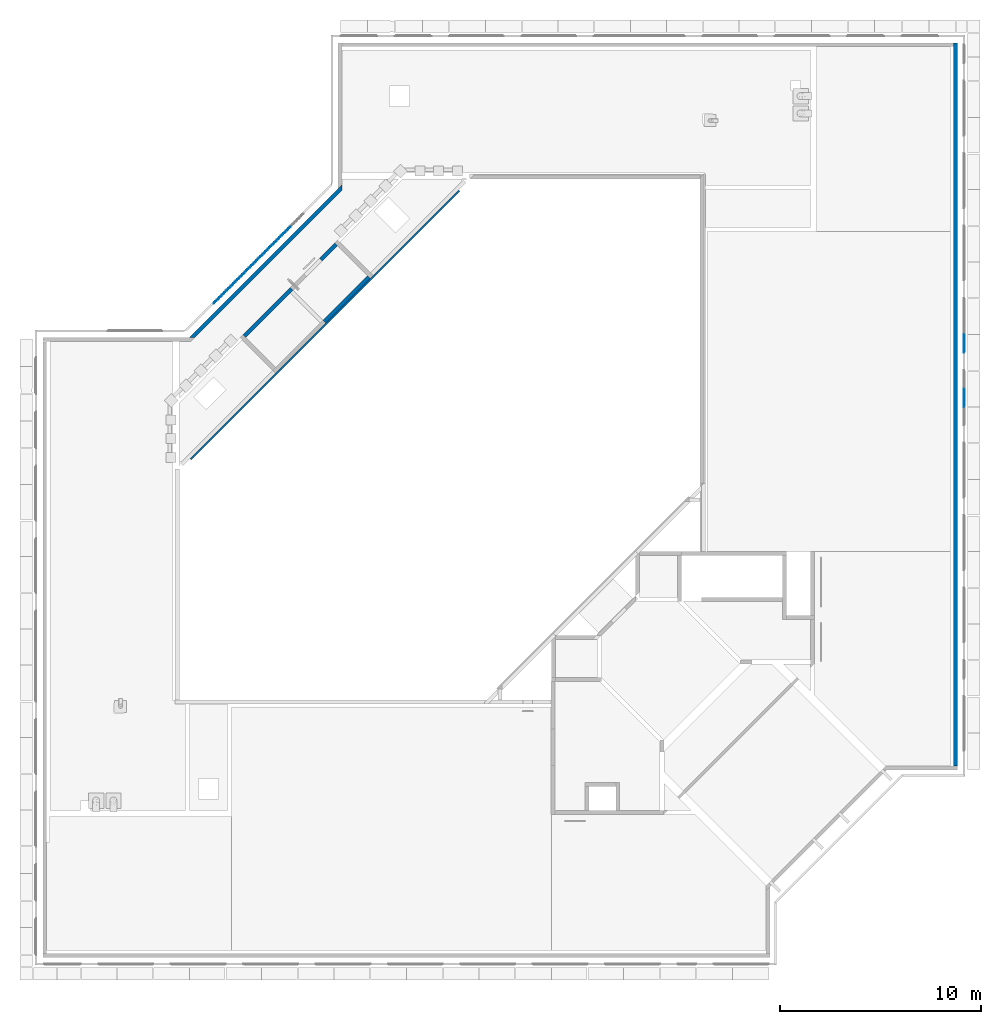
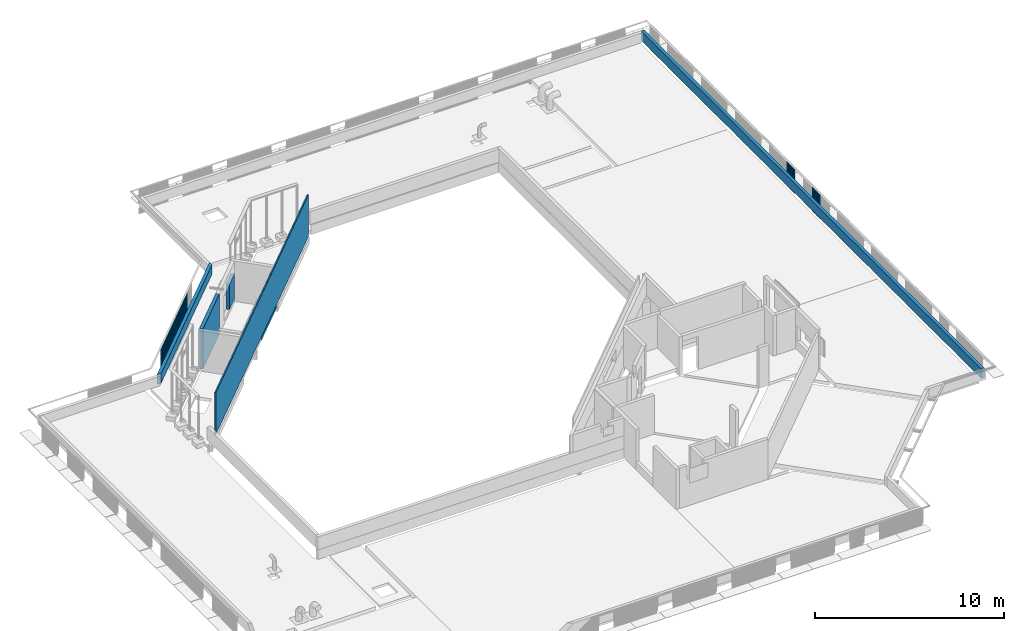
# One storey, part 13 of 37: 14 walls.
"""IFC4X3_ADD2 building model written with IfcOpenShell, lengths in millimetres."""

import ifcopenshell
import ifcopenshell.guid

model = None  # the IFC model being written
_history = None  # IfcOwnerHistory: only IFC2X3 demands one
_inside = {}  # id of a spatial element -> (the spatial element, [elements in it])
_under = {}  # id of a project, library or spatial element -> (it, [spatial elements below it])
_declared = {}  # id of a project -> (the project, [libraries it declares])
_typed = {}  # id of a type object -> (the type object, [elements of that type])
_made_of = {}  # id of a material, layer set ... -> (it, [elements and type objects made of it])


def new_model(schema):
    """Start an empty IFC model of exactly this schema.

    Asked for "IFC4X3", IfcOpenShell would pick the latest addendum, in which some entities
    have other attributes; the version numbers below select the first issue.
    IFC2X3 requires an IfcOwnerHistory on every rooted entity: one is made here for all.
    """
    global model, _history
    if schema == "IFC4X3":
        model = ifcopenshell.file(schema_version=(4, 3, 0, 0))
    else:
        model = ifcopenshell.file(schema=schema)
    _inside.clear()
    _under.clear()
    _declared.clear()
    _typed.clear()
    _made_of.clear()
    _history = None
    if model.schema == "IFC2X3":
        org = make("IfcOrganization", Name="unknown")
        user = make(
            "IfcPersonAndOrganization",
            ThePerson=make("IfcPerson", FamilyName="unknown"),
            TheOrganization=org,
        )
        app = make(
            "IfcApplication",
            ApplicationDeveloper=org,
            Version="unknown",
            ApplicationFullName="unknown",
            ApplicationIdentifier="unknown",
        )
        _history = make(
            "IfcOwnerHistory",
            OwningUser=user,
            OwningApplication=app,
            ChangeAction="ADDED",
            CreationDate=0,
        )
    return model


def make(cls, **values):
    """One entity of the class cls with the attributes given. An attribute that is None is left unset."""
    return model.create_entity(
        cls, **{name: value for name, value in values.items() if value is not None}
    )


def rooted(cls, **values):
    """An entity with a GlobalId (a new one), such as an element, a storey or a relation."""
    return make(cls, GlobalId=ifcopenshell.guid.new(), OwnerHistory=_history, **values)


def si_unit(unit_type, name, prefix=None):
    """IfcSIUnit, for example si_unit("LENGTHUNIT", "METRE", prefix="MILLI")."""
    return make("IfcSIUnit", UnitType=unit_type, Prefix=prefix, Name=name)


def assignment(units):
    """IfcUnitAssignment: the units of a project."""
    return None if units is None else make("IfcUnitAssignment", Units=units)


def point(xyz):
    """IfcCartesianPoint."""
    return None if xyz is None else make("IfcCartesianPoint", Coordinates=xyz)


def direction(xyz):
    """IfcDirection."""
    return None if xyz is None else make("IfcDirection", DirectionRatios=xyz)


def frame(location, z_axis=None, x_axis=None):
    """IfcAxis2Placement3D, a coordinate frame: its origin and axes. An axis left out is left unset."""
    return make(
        "IfcAxis2Placement3D",
        Location=point(location),
        Axis=direction(z_axis),
        RefDirection=direction(x_axis),
    )


def frame_2d(location, x_axis=None):
    """IfcAxis2Placement2D, a coordinate frame in the plane: its origin and x axis."""
    return make(
        "IfcAxis2Placement2D", Location=point(location), RefDirection=direction(x_axis)
    )


def origin_with_axes():
    """The frame at (0, 0, 0) with the z axis (0, 0, 1) and the x axis (1, 0, 0) written out."""
    return frame((0.0, 0.0, 0.0), z_axis=(0.0, 0.0, 1.0), x_axis=(1.0, 0.0, 0.0))


def origin_2d_with_axis():
    """The frame at (0, 0) in the plane with the x axis (1, 0) written out."""
    return frame_2d((0.0, 0.0), x_axis=(1.0, 0.0))


def place(relative_to, where):
    """IfcLocalPlacement: puts the frame where relative to a parent placement (None: the world)."""
    return make(
        "IfcLocalPlacement", PlacementRelTo=relative_to, RelativePlacement=where
    )


def context(
    kind, dimensions, precision=None, world=None, true_north=None, identifier=None
):
    """IfcGeometricRepresentationContext, for example the 3D "Model" context."""
    return make(
        "IfcGeometricRepresentationContext",
        ContextIdentifier=identifier,
        ContextType=kind,
        CoordinateSpaceDimension=dimensions,
        Precision=precision,
        WorldCoordinateSystem=world,
        TrueNorth=true_north,
    )


def subcontext(parent, identifier, kind, view, scale=None):
    """IfcGeometricRepresentationSubContext, for example "Body" below "Model"."""
    return make(
        "IfcGeometricRepresentationSubContext",
        ContextIdentifier=identifier,
        ContextType=kind,
        ParentContext=parent,
        TargetScale=scale,
        TargetView=view,
    )


def project(units=None, contexts=None):
    """IfcProject with its units and contexts."""
    return rooted(
        "IfcProject",
        Name="project",
        RepresentationContexts=contexts,
        UnitsInContext=assignment(units),
    )


def spatial(cls, under=None, at=None, **own):
    """A site, building, storey or space (cls), placed at a placement, below another one or the project."""
    s = rooted(cls, ObjectPlacement=at, **own)
    if under is not None:
        _under.setdefault(under.id(), (under, []))[1].append(s)
    return s


def polyline(points):
    """IfcPolyline through the points."""
    return make("IfcPolyline", Points=[point(p) for p in points])


def profile(cls, at=None, kind="AREA", **sizes):
    """A parametric profile (cls). Its sizes go by their IFC names, for example OverallWidth=200.0."""
    return make(cls, ProfileType=kind, Position=at, **sizes)


def rectangle(**sizes):
    """IfcRectangleProfileDef."""
    return profile("IfcRectangleProfileDef", **sizes)


def outline(outer, holes=None, kind="AREA"):
    """IfcArbitraryClosedProfileDef: a profile drawn as a closed curve; with holes, ...WithVoids."""
    if holes is None:
        return make("IfcArbitraryClosedProfileDef", ProfileType=kind, OuterCurve=outer)
    return make(
        "IfcArbitraryProfileDefWithVoids",
        ProfileType=kind,
        OuterCurve=outer,
        InnerCurves=holes,
    )


def extrude(swept, where, along, depth):
    """IfcExtrudedAreaSolid: the profile swept, set in the frame where, extruded along a direction by depth."""
    return make(
        "IfcExtrudedAreaSolid",
        SweptArea=swept,
        Position=where,
        ExtrudedDirection=direction(along),
        Depth=depth,
    )


def shape(context_of_items, identifier, shape_type, items):
    """IfcShapeRepresentation: the items that make up one representation, for example the "Body"."""
    return make(
        "IfcShapeRepresentation",
        ContextOfItems=context_of_items,
        RepresentationIdentifier=identifier,
        RepresentationType=shape_type,
        Items=items,
    )


def source(mapping_origin, context_of_items, identifier, shape_type, items):
    """IfcRepresentationMap: a shape defined once, which mapped items show again and again."""
    return make(
        "IfcRepresentationMap",
        MappingOrigin=mapping_origin,
        MappedRepresentation=shape(context_of_items, identifier, shape_type, items),
    )


def transform(
    local_origin,
    x_axis=None,
    y_axis=None,
    z_axis=None,
    scale=None,
    scale2=None,
    scale3=None,
    uniform=True,
):
    """IfcCartesianTransformationOperator3D, or its non-uniform kind. x_axis, y_axis, z_axis: its Axis1, 2, 3."""
    if uniform:
        return make(
            "IfcCartesianTransformationOperator3D",
            Axis1=direction(x_axis),
            Axis2=direction(y_axis),
            LocalOrigin=point(local_origin),
            Scale=scale,
            Axis3=direction(z_axis),
        )
    return make(
        "IfcCartesianTransformationOperator3DnonUniform",
        Axis1=direction(x_axis),
        Axis2=direction(y_axis),
        LocalOrigin=point(local_origin),
        Scale=scale,
        Axis3=direction(z_axis),
        Scale2=scale2,
        Scale3=scale3,
    )


def mapped(mapping_source, mapping_target):
    """IfcMappedItem: shows the shape of a source again, moved by a transform."""
    return make(
        "IfcMappedItem", MappingSource=mapping_source, MappingTarget=mapping_target
    )


def material(Name=None, Category=None):
    """IfcMaterial."""
    return make("IfcMaterial", Name=Name, Category=Category)


def made_of(thing, what):
    """Note that an element or type object is made of a material, layer set ...; save() writes the relation."""
    if what is not None:
        _made_of.setdefault(what.id(), (what, []))[1].append(thing)
    return thing


def type_object(cls, material=None, **own):
    """A type object (cls), such as IfcWallType, which elements share."""
    return made_of(rooted(cls, **own), material)


def type_shapes(of_type, sources):
    """Give a type object the sources (RepresentationMaps) that its elements show as mapped items."""
    of_type.RepresentationMaps = sources


def element(
    cls,
    number,
    at=None,
    inside=None,
    cuts=None,
    type_object=None,
    material=None,
    context=None,
    identifier="Body",
    shape_type=None,
    held_by="IfcProductDefinitionShape",
    body=None,
    shapes=None,
    **own,
):
    """One element of the class cls, such as IfcWall. Its Tag is "e" and its number.

    at: its placement. inside: the storey or other place that contains it. cuts: it is an
    opening in that element (IfcRelVoidsElement). A single representation is given by context,
    identifier, shape_type and body (its items); several are given by shapes. held_by: the class
    of the entity that holds the representations. save() writes the other relations.
    """
    e = rooted(cls, Tag="e%d" % number, ObjectPlacement=at, **own)
    if body is not None:
        shapes = [shape(context, identifier, shape_type, body)]
    if shapes is not None:
        e.Representation = make(held_by, Representations=shapes)
    if inside is not None:
        _inside.setdefault(inside.id(), (inside, []))[1].append(e)
    if cuts is not None:
        rooted(
            "IfcRelVoidsElement", RelatingBuildingElement=cuts, RelatedOpeningElement=e
        )
    if type_object is not None:
        _typed.setdefault(type_object.id(), (type_object, []))[1].append(e)
    return made_of(e, material)


def aggregate(whole, parts):
    """IfcRelAggregates: a whole, such as a stair, and the parts it consists of."""
    return rooted("IfcRelAggregates", RelatingObject=whole, RelatedObjects=parts)


def save(model, path):
    """Write the relations noted so far, then the file.

    IfcRelAggregates (storeys below a building ...), IfcRelContainedInSpatialStructure (elements
    in a storey), IfcRelDefinesByType, IfcRelAssociatesMaterial and IfcRelDeclares: one each for
    every whole, place, type object, material and project.
    """
    for whole, parts in _under.values():
        aggregate(whole, parts)
    for where, things in _inside.values():
        rooted(
            "IfcRelContainedInSpatialStructure",
            RelatedElements=things,
            RelatingStructure=where,
        )
    for kind, things in _typed.values():
        rooted("IfcRelDefinesByType", RelatedObjects=things, RelatingType=kind)
    for what, things in _made_of.values():
        rooted("IfcRelAssociatesMaterial", RelatedObjects=things, RelatingMaterial=what)
    for by, libraries in _declared.values():
        rooted("IfcRelDeclares", RelatingContext=by, RelatedDefinitions=libraries)
    model.write(path)


model = new_model("IFC4X3_ADD2")

# Units and contexts
model_context = context("Model", 3, precision=1e-05, world=origin_with_axes(), true_north=direction((0.0, 1.0)))
body_context = subcontext(model_context, "Body", "Model", "MODEL_VIEW")
ifc_project = project(units=[si_unit("LENGTHUNIT", "METRE", prefix="MILLI"), si_unit("AREAUNIT", "SQUARE_METRE"), si_unit("VOLUMEUNIT", "CUBIC_METRE"), si_unit("PLANEANGLEUNIT", "RADIAN"), si_unit("TIMEUNIT", "SECOND"), si_unit("MASSUNIT", "GRAM")], contexts=[model_context])

# Site, building, storey
site_placement = place(None, origin_with_axes())
site = spatial("IfcSite", under=ifc_project, at=site_placement, Name="Site", CompositionType="ELEMENT")
building_placement = place(site_placement, origin_with_axes())
building = spatial("IfcBuilding", under=site, at=building_placement, Name="IFC Building Story")
storey_placement = place(building_placement, frame((0.0, 0.0, 14400.0), z_axis=(0.0, 0.0, 1.0), x_axis=(1.0, 0.0, 0.0)))
storey = spatial("IfcBuildingStorey", under=building, at=storey_placement, Name="040", Elevation=14400.0)

# Walls
ifc_material_1 = material(Name="BB_Beton_Bestaand")
wall_type_1 = type_object("IfcWallType", Name="BB_Beton_Bestaand 200", PredefinedType="NOTDEFINED", material=ifc_material_1)
wall_1_placement = place(storey_placement, origin_with_axes())
element("IfcWall", 1, at=wall_1_placement, inside=storey, type_object=wall_type_1, Name="Basic Wall:BB_XX_Wand uit beton, 200 mm", ObjectType="Basic Wall:BB_XX_Wand uit beton, 200 mm", PredefinedType="SOLIDWALL", context=body_context, shape_type="SweptSolid", body=[
    extrude(rectangle(XDim=3139.99999999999, YDim=199.9999999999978, at=frame_2d((0.0, 0.0), x_axis=(0.7071067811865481, 0.7071067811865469))), frame((-30273.52940645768, 32628.19498780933, -200.0), z_axis=(0.0, 0.0, 1.0), x_axis=(1.0, 0.0, 0.0)), (0.0, 0.0, 1.0), 2600.0),
])
wall_2_placement = place(storey_placement, origin_with_axes())
element("IfcWall", 2, at=wall_2_placement, inside=storey, type_object=wall_type_1, Name="Basic Wall:BB_XX_Wand uit beton, 200 mm", ObjectType="Basic Wall:BB_XX_Wand uit beton, 200 mm", PredefinedType="SOLIDWALL", context=body_context, shape_type="SweptSolid", body=[
    extrude(rectangle(XDim=1079.999999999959, YDim=199.9999999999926, at=frame_2d((0.0, 0.0), x_axis=(0.7071067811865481, 0.7071067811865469))), frame((-31171.55501856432, 34982.86056916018, 0.0), z_axis=(0.0, 0.0, 1.0), x_axis=(1.0, 0.0, 0.0)), (0.0, 0.0, 1.0), 1610.0),
])
wall_3_placement = place(storey_placement, origin_with_axes())
element("IfcWall", 3, at=wall_3_placement, inside=storey, type_object=wall_type_1, Name="Basic Wall:BB_XX_Wand uit beton, 200 mm", ObjectType="Basic Wall:BB_XX_Wand uit beton, 200 mm", PredefinedType="SOLIDWALL", context=body_context, shape_type="SweptSolid", body=[
    extrude(rectangle(XDim=3330.000000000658, YDim=199.9999999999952, at=frame_2d((0.0, 0.0), x_axis=(0.7071067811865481, 0.7071067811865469))), frame((-34187.36544032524, 31967.05014739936, -200.0), z_axis=(0.0, 0.0, 1.0), x_axis=(1.0, 0.0, 0.0)), (0.0, 0.0, 1.0), 2600.0),
])
wall_type_2 = type_object("IfcWallType", Name="BB_Beton_Bestaand 190", PredefinedType="NOTDEFINED", material=ifc_material_1)
wall_4_placement = place(storey_placement, origin_with_axes())
element("IfcWall", 4, at=wall_4_placement, inside=storey, type_object=wall_type_2, Name="Basic Wall:BB_XX_Wand uit beton, 190 mm", ObjectType="Basic Wall:BB_XX_Wand uit beton, 190 mm", PredefinedType="SOLIDWALL", context=body_context, shape_type="SweptSolid", body=[
    extrude(rectangle(XDim=35964.9999999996, YDim=190.0, at=frame_2d((0.0, 0.0), x_axis=(0.0, 1.0))), frame((0.0, 27397.5000000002, -200.0), z_axis=(0.0, 0.0, 1.0), x_axis=(1.0, 0.0, 0.0)), (0.0, 0.0, 1.0), 619.9999999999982),
])
wall_5_placement = place(storey_placement, origin_with_axes())
element("IfcWall", 5, at=wall_5_placement, inside=storey, type_object=wall_type_2, Name="Basic Wall:BB_XX_Wand uit beton, 190 mm", ObjectType="Basic Wall:BB_XX_Wand uit beton, 190 mm", PredefinedType="SOLIDWALL", context=body_context, shape_type="SweptSolid", body=[
    extrude(outline(polyline([(3735.065097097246, 3600.714808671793), (-3600.714808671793, -3735.065097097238), (-3869.41538552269, -3735.065097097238), (3735.065097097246, 3869.415385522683), (3735.065097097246, 3600.714808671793)])), frame((-34240.06509709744, 34459.93490289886, -200.0), z_axis=(0.0, 0.0, 1.0), x_axis=(1.0, 0.0, 0.0)), (0.0, 0.0, 1.0), 619.999999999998),
])
wall_type_3 = type_object("IfcWallType", Name="Basic Wall_BB_10.01_Akoestische voorzetwand atrium_ 75 mm13", PredefinedType="NOTDEFINED")
shared_shape = source(origin_with_axes(), body_context, "Body", "SweptSolid", [
    extrude(rectangle(XDim=18900.0, YDim=49.99999999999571, at=origin_2d_with_axis()), frame((9449.999999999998, 12.49999999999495, 0.0), z_axis=(0.0, 0.0, 1.0), x_axis=(1.0, 0.0, 0.0)), (0.0, 0.0, 1.0), 2700.0),
    extrude(rectangle(XDim=18899.99999999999, YDim=12.50000000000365, at=origin_2d_with_axis()), frame((9450.000000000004, -18.7500000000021, 0.0), z_axis=(0.0, 0.0, 1.0), x_axis=(1.0, 0.0, 0.0)), (0.0, 0.0, 1.0), 2700.0),
    extrude(rectangle(XDim=18900.0, YDim=12.50000000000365, at=origin_2d_with_axis()), frame((9449.999999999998, -31.25000000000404, 0.0), z_axis=(0.0, 0.0, 1.0), x_axis=(1.0, 0.0, 0.0)), (0.0, 0.0, 1.0), 2700.0),
])
type_shapes(wall_type_3, [shared_shape])
wall_6_placement = place(storey_placement, frame((-38035.7940969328, 24671.4759325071, 230.0), z_axis=(0.0, 0.0, 1.0), x_axis=(0.7071067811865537, 0.7071067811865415, 0.0)))
element("IfcWall", 6, at=wall_6_placement, inside=storey, type_object=wall_type_3, Name="Basic Wall:BB_10.01_Akoestische voorzetwand atrium, 75 mm", ObjectType="Basic Wall:BB_10.01_Akoestische voorzetwand atrium, 75 mm", PredefinedType="PARTITIONING", context=body_context, shape_type="MappedRepresentation", body=[
    mapped(shared_shape, transform((0.0, 0.0, 0.0))),
])
ifc_material_2 = material(Name="BB_Metaal_Aluminium_Puntprofiel")
wall_type_4 = type_object("IfcWallType", Name="BB_Metaal_Aluminium_Puntprofiel 1", PredefinedType="NOTDEFINED", material=ifc_material_2)
wall_7_placement = place(storey_placement, origin_with_axes())
element("IfcWall", 7, at=wall_7_placement, inside=storey, type_object=wall_type_4, Name="BB_07.10_Gevelbekleding_PuntProfiel, 900 mm, vol_GMO:900 x 1600 mm", ObjectType="BB_07.10_Gevelbekleding_PuntProfiel, 900 mm, vol_GMO:900 x 1600 mm", PredefinedType="NOTDEFINED", context=body_context, shape_type="SweptSolid", body=[
    extrude(outline(polyline([(-10.06027913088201, -349.0000000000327), (-10.06027913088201, -371.0000000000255), (23.93972086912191, -405.0000000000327), (-10.06027913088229, -439.0000000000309), (-10.06027913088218, -461.0000000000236), (-11.06027913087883, -461.4142135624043), (-11.06027913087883, -438.5857864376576), (22.52550730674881, -405.0000000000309), (-11.06027913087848, -371.4142135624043), (-11.06027913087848, -348.5857864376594), (22.52550730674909, -315.0000000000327), (-11.0602791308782, -281.4142135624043), (-11.0602791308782, -258.5857864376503), (22.52550730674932, -225.0000000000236), (-11.06027913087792, -191.4142135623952), (-11.06027913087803, -168.585786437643), (22.5255073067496, -135.0000000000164), (-11.0602791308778, -101.4142135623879), (-11.06027913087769, -78.58578643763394), (22.52550730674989, -45.00000000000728), (-11.06027913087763, -11.41421356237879), (-11.06027913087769, 11.41421356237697), (22.52550730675, 45.00000000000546), (-11.0602791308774, 78.58578643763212), (-11.0602791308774, 101.4142135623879), (22.52550730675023, 135.0000000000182), (-11.06027913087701, 168.585786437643), (-11.06027913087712, 191.4142135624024), (22.5255073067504, 225.0000000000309), (-11.06027913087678, 258.5857864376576), (-11.06027913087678, 281.4142135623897), (22.5255073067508, 315.0000000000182), (-11.06027913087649, 348.585786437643), (-11.06027913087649, 371.4142135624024), (22.52550730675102, 405.0000000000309), (-11.06027913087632, 438.5857864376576), (-11.06027913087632, 461.4142135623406), (-10.0602791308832, 460.9999999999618), (-10.0602791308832, 439.0000000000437), (23.93972086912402, 405.0000000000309), (-10.06027913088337, 371.0000000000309), (-10.06027913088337, 349.0000000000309), (23.93972086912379, 315.0000000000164), (-10.0602791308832, 281.0000000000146), (-10.0602791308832, 259.0000000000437), (23.93972086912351, 225.0000000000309), (-10.060279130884, 191.0000000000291), (-10.060279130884, 169.0000000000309), (23.93972086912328, 135.0000000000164), (-10.06027913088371, 101.0000000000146), (-10.06027913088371, 79.00000000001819), (23.93972086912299, 45.00000000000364), (-10.06027913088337, 11.00000000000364), (-10.06027913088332, -10.99999999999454), (23.93972086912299, -45.00000000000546), (-10.0602791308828, -79.00000000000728), (-10.0602791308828, -101.0000000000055), (23.93972086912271, -135.0000000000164), (-10.06027913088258, -169.0000000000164), (-10.06027913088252, -191.0000000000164), (23.93972086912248, -225.0000000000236), (-10.06027913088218, -259.0000000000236), (-10.06027913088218, -281.0000000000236), (23.9397208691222, -315.0000000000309), (-10.06027913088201, -349.0000000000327)])), frame((426.0602791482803, 27730.00000000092, -960.0), z_axis=(0.0, 0.0, 1.0), x_axis=(1.0, 0.0, 0.0)), (0.0, 0.0, 1.0), 1600.0),
])
wall_8_placement = place(storey_placement, origin_with_axes())
element("IfcWall", 8, at=wall_8_placement, inside=storey, type_object=wall_type_4, Name="BB_07.10_Gevelbekleding_PuntProfiel, 900 mm, vol_GMO:900 x 1600 mm", ObjectType="BB_07.10_Gevelbekleding_PuntProfiel, 900 mm, vol_GMO:900 x 1600 mm", PredefinedType="NOTDEFINED", context=body_context, shape_type="SweptSolid", body=[
    extrude(outline(polyline([(-10.06027913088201, -349.0000000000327), (-10.06027913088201, -371.0000000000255), (23.93972086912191, -405.0000000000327), (-10.06027913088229, -439.0000000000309), (-10.06027913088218, -461.0000000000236), (-11.06027913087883, -461.4142135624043), (-11.06027913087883, -438.5857864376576), (22.52550730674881, -405.0000000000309), (-11.06027913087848, -371.4142135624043), (-11.06027913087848, -348.5857864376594), (22.52550730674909, -315.0000000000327), (-11.0602791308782, -281.4142135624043), (-11.0602791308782, -258.5857864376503), (22.52550730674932, -225.0000000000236), (-11.06027913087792, -191.4142135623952), (-11.06027913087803, -168.585786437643), (22.5255073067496, -135.0000000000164), (-11.0602791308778, -101.4142135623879), (-11.06027913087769, -78.58578643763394), (22.52550730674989, -45.00000000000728), (-11.06027913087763, -11.41421356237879), (-11.06027913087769, 11.41421356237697), (22.52550730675, 45.00000000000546), (-11.0602791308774, 78.58578643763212), (-11.0602791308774, 101.4142135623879), (22.52550730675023, 135.0000000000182), (-11.06027913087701, 168.585786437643), (-11.06027913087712, 191.4142135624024), (22.5255073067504, 225.0000000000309), (-11.06027913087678, 258.5857864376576), (-11.06027913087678, 281.4142135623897), (22.5255073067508, 315.0000000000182), (-11.06027913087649, 348.585786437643), (-11.06027913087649, 371.4142135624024), (22.52550730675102, 405.0000000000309), (-11.06027913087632, 438.5857864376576), (-11.06027913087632, 461.4142135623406), (-10.0602791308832, 460.9999999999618), (-10.0602791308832, 439.0000000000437), (23.93972086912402, 405.0000000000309), (-10.06027913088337, 371.0000000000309), (-10.06027913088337, 349.0000000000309), (23.93972086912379, 315.0000000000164), (-10.0602791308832, 281.0000000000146), (-10.0602791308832, 259.0000000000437), (23.93972086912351, 225.0000000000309), (-10.060279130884, 191.0000000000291), (-10.060279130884, 169.0000000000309), (23.93972086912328, 135.0000000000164), (-10.06027913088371, 101.0000000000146), (-10.06027913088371, 79.00000000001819), (23.93972086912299, 45.00000000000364), (-10.06027913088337, 11.00000000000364), (-10.06027913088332, -10.99999999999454), (23.93972086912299, -45.00000000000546), (-10.0602791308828, -79.00000000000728), (-10.0602791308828, -101.0000000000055), (23.93972086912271, -135.0000000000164), (-10.06027913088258, -169.0000000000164), (-10.06027913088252, -191.0000000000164), (23.93972086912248, -225.0000000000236), (-10.06027913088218, -259.0000000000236), (-10.06027913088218, -281.0000000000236), (23.9397208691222, -315.0000000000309), (-10.06027913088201, -349.0000000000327)])), frame((426.0602791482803, 30430.00000000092, -960.0), z_axis=(0.0, 0.0, 1.0), x_axis=(1.0, 0.0, 0.0)), (0.0, 0.0, 1.0), 1600.0),
])
wall_type_5 = type_object("IfcWallType", Name="BB_Metaal_Aluminium_Puntprofiel 63.6396", PredefinedType="NOTDEFINED", material=ifc_material_2)
wall_9_placement = place(storey_placement, origin_with_axes())
element("IfcWall", 9, at=wall_9_placement, inside=storey, type_object=wall_type_5, Name="BB_07.10_Gevelbekleding_PuntProfiel, 900 mm, vol_GMO:900 x 1600 mm", ObjectType="BB_07.10_Gevelbekleding_PuntProfiel, 900 mm, vol_GMO:900 x 1600 mm", PredefinedType="NOTDEFINED", context=body_context, shape_type="SweptSolid", body=[
    extrude(outline(polyline([(253.8939582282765, 239.6665750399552), (269.4503074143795, 255.2229242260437), (269.450307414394, 303.306185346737), (317.5335685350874, 303.3061853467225), (333.0899177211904, 318.862534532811), (334.0899177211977, 318.4483209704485), (317.9477820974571, 302.3061853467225), (270.450307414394, 302.306185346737), (270.4503074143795, 254.8087106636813), (254.3081717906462, 238.6665750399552), (206.8106971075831, 238.666575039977), (206.8106971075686, 191.169100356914), (190.6685614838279, 175.0269647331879), (143.1710868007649, 175.0269647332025), (143.1710868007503, 127.5294900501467), (127.0289511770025, 111.3873544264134), (79.53147649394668, 111.3873544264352), (79.53147649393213, 63.88987974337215), (63.38934087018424, 47.74774411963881), (15.89186618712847, 47.74774411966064), (15.89186618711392, 0.2502694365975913), (-0.2502694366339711, -15.89186618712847), (-47.74774411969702, -15.89186618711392), (-47.74774411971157, -63.38934087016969), (-63.88987974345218, -79.53147649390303), (-111.3873544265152, -79.53147649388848), (-111.3873544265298, -127.0289511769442), (-127.5294900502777, -143.1710868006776), (-175.0269647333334, -143.171086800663), (-175.0269647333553, -190.6685614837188), (-191.1691003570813, -206.8106971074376), (-238.6665750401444, -206.810697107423), (-238.6665750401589, -254.3081717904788), (-254.8087106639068, -270.4503074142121), (-302.3061853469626, -270.4503074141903), (-302.3061853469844, -317.9477820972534), (-318.4483209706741, -334.0899177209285), (-318.8625345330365, -333.0899177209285), (-303.3061853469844, -317.5335685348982), (-303.3061853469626, -269.4503074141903), (-255.2229242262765, -269.4503074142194), (-239.6665750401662, -253.8939582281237), (-239.6665750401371, -205.8106971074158), (-191.583313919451, -205.8106971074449), (-176.0269647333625, -190.2543479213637), (-176.0269647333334, -142.171086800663), (-127.9437036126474, -142.1710868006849), (-112.3873544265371, -126.6147376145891), (-112.3873544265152, -78.53147649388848), (-64.30409330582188, -78.5314764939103), (-48.74774411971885, -62.97512730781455), (-48.74774411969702, -14.89186618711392), (-0.6644829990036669, -14.89186618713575), (14.89186618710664, 0.6644829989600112), (14.89186618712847, 48.74774411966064), (62.97512730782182, 48.74774411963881), (78.53147649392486, 64.30409330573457), (78.53147649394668, 112.3873544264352), (126.61473761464, 112.3873544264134), (142.1710868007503, 127.9437036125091), (142.1710868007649, 176.0269647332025), (190.2543479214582, 176.0269647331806), (205.8106971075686, 191.5833139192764), (205.8106971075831, 239.666575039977), (253.8939582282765, 239.6665750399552)])), frame((-35286.96984948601, 34015.57037564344, -960.0), z_axis=(0.0, 0.0, 1.0), x_axis=(1.0, 0.0, 0.0)), (0.0, 0.0, 1.0), 1600.0),
])
wall_10_placement = place(storey_placement, origin_with_axes())
element("IfcWall", 10, at=wall_10_placement, inside=storey, type_object=wall_type_5, Name="BB_07.10_Gevelbekleding_PuntProfiel, 900 mm, vol_GMO:900 x 1600 mm", ObjectType="BB_07.10_Gevelbekleding_PuntProfiel, 900 mm, vol_GMO:900 x 1600 mm", PredefinedType="NOTDEFINED", context=body_context, shape_type="SweptSolid", body=[
    extrude(outline(polyline([(253.8939582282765, 239.6665750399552), (269.4503074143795, 255.2229242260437), (269.450307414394, 303.306185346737), (317.5335685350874, 303.3061853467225), (333.0899177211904, 318.862534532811), (334.0899177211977, 318.4483209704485), (317.9477820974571, 302.3061853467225), (270.450307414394, 302.306185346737), (270.4503074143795, 254.8087106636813), (254.3081717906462, 238.6665750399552), (206.8106971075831, 238.666575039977), (206.8106971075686, 191.169100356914), (190.6685614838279, 175.0269647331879), (143.1710868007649, 175.0269647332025), (143.1710868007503, 127.5294900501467), (127.0289511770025, 111.3873544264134), (79.53147649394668, 111.3873544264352), (79.53147649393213, 63.88987974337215), (63.38934087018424, 47.74774411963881), (15.89186618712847, 47.74774411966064), (15.89186618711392, 0.2502694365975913), (-0.2502694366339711, -15.89186618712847), (-47.74774411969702, -15.89186618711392), (-47.74774411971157, -63.38934087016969), (-63.88987974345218, -79.53147649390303), (-111.3873544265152, -79.53147649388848), (-111.3873544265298, -127.0289511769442), (-127.5294900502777, -143.1710868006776), (-175.0269647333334, -143.171086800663), (-175.0269647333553, -190.6685614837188), (-191.1691003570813, -206.8106971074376), (-238.6665750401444, -206.810697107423), (-238.6665750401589, -254.3081717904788), (-254.8087106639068, -270.4503074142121), (-302.3061853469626, -270.4503074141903), (-302.3061853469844, -317.9477820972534), (-318.4483209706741, -334.0899177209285), (-318.8625345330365, -333.0899177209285), (-303.3061853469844, -317.5335685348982), (-303.3061853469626, -269.4503074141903), (-255.2229242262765, -269.4503074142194), (-239.6665750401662, -253.8939582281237), (-239.6665750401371, -205.8106971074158), (-191.583313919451, -205.8106971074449), (-176.0269647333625, -190.2543479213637), (-176.0269647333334, -142.171086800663), (-127.9437036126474, -142.1710868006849), (-112.3873544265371, -126.6147376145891), (-112.3873544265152, -78.53147649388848), (-64.30409330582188, -78.5314764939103), (-48.74774411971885, -62.97512730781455), (-48.74774411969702, -14.89186618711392), (-0.6644829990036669, -14.89186618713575), (14.89186618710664, 0.6644829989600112), (14.89186618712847, 48.74774411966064), (62.97512730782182, 48.74774411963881), (78.53147649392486, 64.30409330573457), (78.53147649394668, 112.3873544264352), (126.61473761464, 112.3873544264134), (142.1710868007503, 127.9437036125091), (142.1710868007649, 176.0269647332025), (190.2543479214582, 176.0269647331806), (205.8106971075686, 191.5833139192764), (205.8106971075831, 239.666575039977), (253.8939582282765, 239.6665750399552)])), frame((-35923.36595255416, 33379.17427257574, -960.0), z_axis=(0.0, 0.0, 1.0), x_axis=(1.0, 0.0, 0.0)), (0.0, 0.0, 1.0), 1600.0),
])
wall_11_placement = place(storey_placement, origin_with_axes())
element("IfcWall", 11, at=wall_11_placement, inside=storey, type_object=wall_type_5, Name="BB_07.10_Gevelbekleding_PuntProfiel, 900 mm, vol_GMO:900 x 1600 mm", ObjectType="BB_07.10_Gevelbekleding_PuntProfiel, 900 mm, vol_GMO:900 x 1600 mm", PredefinedType="NOTDEFINED", context=body_context, shape_type="SweptSolid", body=[
    extrude(outline(polyline([(253.8939582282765, 239.6665750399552), (269.4503074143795, 255.2229242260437), (269.450307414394, 303.306185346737), (317.5335685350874, 303.3061853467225), (333.0899177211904, 318.862534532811), (334.0899177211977, 318.4483209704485), (317.9477820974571, 302.3061853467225), (270.450307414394, 302.306185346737), (270.4503074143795, 254.8087106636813), (254.3081717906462, 238.6665750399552), (206.8106971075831, 238.666575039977), (206.8106971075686, 191.169100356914), (190.6685614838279, 175.0269647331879), (143.1710868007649, 175.0269647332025), (143.1710868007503, 127.5294900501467), (127.0289511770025, 111.3873544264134), (79.53147649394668, 111.3873544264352), (79.53147649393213, 63.88987974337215), (63.38934087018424, 47.74774411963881), (15.89186618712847, 47.74774411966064), (15.89186618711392, 0.2502694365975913), (-0.2502694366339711, -15.89186618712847), (-47.74774411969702, -15.89186618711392), (-47.74774411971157, -63.38934087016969), (-63.88987974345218, -79.53147649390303), (-111.3873544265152, -79.53147649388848), (-111.3873544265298, -127.0289511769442), (-127.5294900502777, -143.1710868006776), (-175.0269647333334, -143.171086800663), (-175.0269647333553, -190.6685614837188), (-191.1691003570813, -206.8106971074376), (-238.6665750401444, -206.810697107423), (-238.6665750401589, -254.3081717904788), (-254.8087106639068, -270.4503074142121), (-302.3061853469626, -270.4503074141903), (-302.3061853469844, -317.9477820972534), (-318.4483209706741, -334.0899177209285), (-318.8625345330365, -333.0899177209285), (-303.3061853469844, -317.5335685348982), (-303.3061853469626, -269.4503074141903), (-255.2229242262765, -269.4503074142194), (-239.6665750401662, -253.8939582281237), (-239.6665750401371, -205.8106971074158), (-191.583313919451, -205.8106971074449), (-176.0269647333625, -190.2543479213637), (-176.0269647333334, -142.171086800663), (-127.9437036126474, -142.1710868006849), (-112.3873544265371, -126.6147376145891), (-112.3873544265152, -78.53147649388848), (-64.30409330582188, -78.5314764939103), (-48.74774411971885, -62.97512730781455), (-48.74774411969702, -14.89186618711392), (-0.6644829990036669, -14.89186618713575), (14.89186618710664, 0.6644829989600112), (14.89186618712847, 48.74774411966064), (62.97512730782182, 48.74774411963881), (78.53147649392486, 64.30409330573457), (78.53147649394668, 112.3873544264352), (126.61473761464, 112.3873544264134), (142.1710868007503, 127.9437036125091), (142.1710868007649, 176.0269647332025), (190.2543479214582, 176.0269647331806), (205.8106971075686, 191.5833139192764), (205.8106971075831, 239.666575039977), (253.8939582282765, 239.6665750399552)])), frame((-36559.76205562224, 32742.77816950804, -960.0), z_axis=(0.0, 0.0, 1.0), x_axis=(1.0, 0.0, 0.0)), (0.0, 0.0, 1.0), 1600.0),
])
wall_12_placement = place(storey_placement, origin_with_axes())
element("IfcWall", 12, at=wall_12_placement, inside=storey, type_object=wall_type_5, Name="BB_07.10_Gevelbekleding_PuntProfiel, 900 mm, vol_GMO:900 x 1600 mm", ObjectType="BB_07.10_Gevelbekleding_PuntProfiel, 900 mm, vol_GMO:900 x 1600 mm", PredefinedType="NOTDEFINED", context=body_context, shape_type="SweptSolid", body=[
    extrude(outline(polyline([(-255.2229242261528, -269.4503074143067), (-239.6665750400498, -253.8939582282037), (-239.6665750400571, -205.8106971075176), (-191.583313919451, -205.8106971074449), (-176.0269647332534, -190.2543479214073), (-176.0269647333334, -142.171086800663), (-127.9437036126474, -142.1710868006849), (-112.3873544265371, -126.6147376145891), (-112.3873544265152, -78.53147649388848), (-64.30409330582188, -78.5314764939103), (-48.74774411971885, -62.97512730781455), (-48.74774411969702, -14.89186618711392), (-0.6644829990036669, -14.89186618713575), (14.89186618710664, 0.6644829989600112), (14.89186618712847, 48.74774411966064), (62.97512730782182, 48.74774411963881), (78.53147649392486, 64.30409330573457), (78.53147649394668, 112.3873544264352), (126.61473761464, 112.3873544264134), (142.1710868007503, 127.9437036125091), (142.1710868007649, 176.0269647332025), (190.2543479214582, 176.0269647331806), (205.8106971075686, 191.5833139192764), (205.8106971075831, 239.666575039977), (253.8939582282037, 239.6665750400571), (269.4503074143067, 255.2229242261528), (269.4503074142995, 303.3061853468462), (317.5335685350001, 303.3061853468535), (333.0899177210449, 318.8625345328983), (334.0899177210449, 318.4483209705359), (317.9477820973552, 302.3061853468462), (270.4503074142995, 302.3061853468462), (270.4503074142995, 254.8087106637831), (254.3081717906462, 238.6665750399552), (206.8106971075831, 238.666575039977), (206.8106971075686, 191.169100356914), (190.6685614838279, 175.0269647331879), (143.1710868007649, 175.0269647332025), (143.1710868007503, 127.5294900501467), (127.0289511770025, 111.3873544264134), (79.53147649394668, 111.3873544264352), (79.53147649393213, 63.88987974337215), (63.38934087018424, 47.74774411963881), (15.89186618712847, 47.74774411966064), (15.89186618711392, 0.2502694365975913), (-0.2502694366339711, -15.89186618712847), (-47.74774411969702, -15.89186618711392), (-47.74774411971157, -63.38934087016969), (-63.88987974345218, -79.53147649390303), (-111.3873544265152, -79.53147649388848), (-111.3873544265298, -127.0289511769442), (-127.5294900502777, -143.1710868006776), (-175.0269647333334, -143.171086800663), (-175.0269647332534, -190.6685614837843), (-191.1691003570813, -206.8106971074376), (-238.6665750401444, -206.810697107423), (-238.6665750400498, -254.3081717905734), (-254.8087106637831, -270.4503074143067), (-302.3061853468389, -270.4503074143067), (-302.3061853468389, -317.9477820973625), (-318.4483209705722, -334.0899177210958), (-318.8625345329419, -333.0899177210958), (-303.3061853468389, -317.5335685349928), (-303.3061853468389, -269.4503074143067), (-255.2229242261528, -269.4503074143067)])), frame((-34015.57037564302, 35286.96984948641, -960.0), z_axis=(0.0, 0.0, 1.0), x_axis=(1.0, 0.0, 0.0)), (0.0, 0.0, 1.0), 1600.0),
])
wall_13_placement = place(storey_placement, origin_with_axes())
element("IfcWall", 13, at=wall_13_placement, inside=storey, type_object=wall_type_5, Name="BB_07.10_Gevelbekleding_PuntProfiel, 900 mm, vol_GMO:900 x 1600 mm", ObjectType="BB_07.10_Gevelbekleding_PuntProfiel, 900 mm, vol_GMO:900 x 1600 mm", PredefinedType="NOTDEFINED", context=body_context, shape_type="SweptSolid", body=[
    extrude(outline(polyline([(-255.2229242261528, -269.4503074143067), (-239.6665750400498, -253.8939582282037), (-239.6665750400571, -205.8106971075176), (-191.5833139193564, -205.8106971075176), (-176.0269647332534, -190.2543479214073), (-176.0269647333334, -142.171086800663), (-127.9437036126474, -142.1710868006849), (-112.3873544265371, -126.6147376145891), (-112.3873544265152, -78.53147649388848), (-64.30409330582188, -78.5314764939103), (-48.74774411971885, -62.97512730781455), (-48.74774411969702, -14.89186618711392), (-0.6644829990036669, -14.89186618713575), (14.89186618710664, 0.6644829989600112), (14.89186618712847, 48.74774411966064), (62.97512730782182, 48.74774411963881), (78.53147649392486, 64.30409330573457), (78.53147649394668, 112.3873544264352), (126.61473761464, 112.3873544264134), (142.1710868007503, 127.9437036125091), (142.1710868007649, 176.0269647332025), (190.2543479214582, 176.0269647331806), (205.8106971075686, 191.5833139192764), (205.8106971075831, 239.666575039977), (253.8939582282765, 239.6665750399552), (269.4503074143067, 255.2229242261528), (269.4503074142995, 303.3061853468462), (317.5335685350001, 303.3061853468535), (333.0899177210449, 318.8625345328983), (334.0899177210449, 318.4483209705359), (317.9477820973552, 302.3061853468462), (270.4503074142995, 302.3061853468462), (270.4503074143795, 254.8087106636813), (254.3081717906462, 238.6665750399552), (206.8106971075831, 238.666575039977), (206.8106971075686, 191.169100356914), (190.6685614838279, 175.0269647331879), (143.1710868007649, 175.0269647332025), (143.1710868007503, 127.5294900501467), (127.0289511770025, 111.3873544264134), (79.53147649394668, 111.3873544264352), (79.53147649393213, 63.88987974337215), (63.38934087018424, 47.74774411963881), (15.89186618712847, 47.74774411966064), (15.89186618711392, 0.2502694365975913), (-0.2502694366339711, -15.89186618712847), (-47.74774411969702, -15.89186618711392), (-47.74774411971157, -63.38934087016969), (-63.88987974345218, -79.53147649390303), (-111.3873544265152, -79.53147649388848), (-111.3873544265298, -127.0289511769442), (-127.5294900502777, -143.1710868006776), (-175.0269647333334, -143.171086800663), (-175.0269647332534, -190.6685614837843), (-191.169100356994, -206.8106971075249), (-238.6665750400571, -206.8106971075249), (-238.6665750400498, -254.3081717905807), (-254.8087106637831, -270.450307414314), (-302.3061853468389, -270.4503074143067), (-302.3061853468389, -317.9477820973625), (-318.4483209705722, -334.0899177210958), (-318.8625345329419, -333.0899177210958), (-303.3061853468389, -317.5335685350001), (-303.3061853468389, -269.4503074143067), (-255.2229242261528, -269.4503074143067)])), frame((-33379.17427257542, 35923.36595255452, -960.0), z_axis=(0.0, 0.0, 1.0), x_axis=(1.0, 0.0, 0.0)), (0.0, 0.0, 1.0), 1600.0),
])
wall_type_6 = type_object("IfcWallType", Name="BB_Metaal_Aluminium_Puntprofiel 127.279", PredefinedType="NOTDEFINED", material=ifc_material_2)
wall_14_placement = place(storey_placement, origin_with_axes())
element("IfcWall", 14, at=wall_14_placement, inside=storey, type_object=wall_type_6, Name="BB_07.10_Gevelbekleding_PuntProfiel, 900 mm, vol_GMO:900 x 1600 mm", ObjectType="BB_07.10_Gevelbekleding_PuntProfiel, 900 mm, vol_GMO:900 x 1600 mm", PredefinedType="NOTDEFINED", context=body_context, shape_type="SweptSolid", body=[
    extrude(outline(polyline([(-255.2229242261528, -269.4503074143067), (-239.6665750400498, -253.8939582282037), (-239.6665750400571, -205.8106971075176), (-191.5833139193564, -205.8106971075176), (-176.0269647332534, -190.2543479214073), (-176.0269647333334, -142.171086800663), (-127.9437036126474, -142.1710868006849), (-112.3873544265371, -126.6147376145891), (-112.3873544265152, -78.53147649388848), (-64.30409330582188, -78.5314764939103), (-48.74774411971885, -62.97512730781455), (-48.74774411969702, -14.89186618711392), (-0.6644829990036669, -14.89186618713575), (14.89186618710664, 0.6644829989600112), (14.89186618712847, 48.74774411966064), (62.97512730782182, 48.74774411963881), (78.53147649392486, 64.30409330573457), (78.53147649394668, 112.3873544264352), (126.61473761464, 112.3873544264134), (142.1710868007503, 127.9437036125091), (142.1710868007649, 176.0269647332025), (190.2543479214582, 176.0269647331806), (205.8106971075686, 191.5833139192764), (205.8106971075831, 239.666575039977), (253.8939582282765, 239.6665750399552), (269.4503074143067, 255.2229242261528), (269.4503074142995, 303.3061853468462), (317.5335685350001, 303.3061853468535), (333.0899177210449, 318.8625345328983), (334.0899177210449, 318.4483209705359), (317.9477820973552, 302.3061853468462), (270.4503074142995, 302.3061853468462), (270.4503074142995, 254.8087106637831), (254.3081717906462, 238.6665750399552), (206.8106971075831, 238.666575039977), (206.8106971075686, 191.169100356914), (190.6685614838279, 175.0269647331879), (143.1710868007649, 175.0269647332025), (143.1710868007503, 127.5294900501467), (127.0289511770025, 111.3873544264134), (79.53147649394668, 111.3873544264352), (79.53147649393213, 63.88987974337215), (63.38934087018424, 47.74774411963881), (15.89186618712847, 47.74774411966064), (15.89186618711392, 0.2502694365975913), (-0.2502694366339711, -15.89186618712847), (-47.74774411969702, -15.89186618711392), (-47.74774411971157, -63.38934087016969), (-63.88987974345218, -79.53147649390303), (-111.3873544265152, -79.53147649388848), (-111.3873544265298, -127.0289511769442), (-127.5294900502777, -143.1710868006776), (-175.0269647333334, -143.171086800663), (-175.0269647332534, -190.6685614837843), (-191.1691003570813, -206.8106971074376), (-238.6665750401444, -206.810697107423), (-238.6665750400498, -254.3081717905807), (-254.8087106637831, -270.4503074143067), (-302.3061853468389, -270.4503074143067), (-302.3061853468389, -317.9477820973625), (-318.4483209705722, -334.0899177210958), (-318.8625345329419, -333.0899177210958), (-303.3061853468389, -317.5335685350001), (-303.3061853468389, -269.4503074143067), (-255.2229242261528, -269.4503074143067)])), frame((-34651.27011256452, 34651.27011256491, -960.0), z_axis=(0.0, 0.0, 1.0), x_axis=(1.0, 0.0, 0.0)), (0.0, 0.0, 1.0), 1600.0),
])

save(model, "model.ifc")
